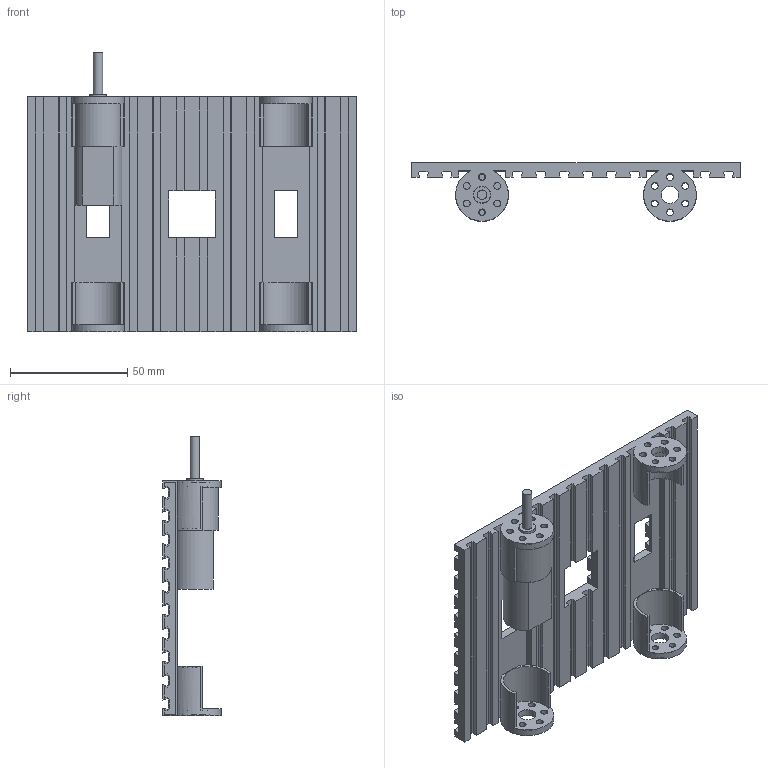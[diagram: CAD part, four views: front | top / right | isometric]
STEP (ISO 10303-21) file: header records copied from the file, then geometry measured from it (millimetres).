
FILE_DESCRIPTION(/* description */ (''),/* implementation_level */ '2;1');
FILE_NAME(/* name */ 'C:/Users/priba/Downloads/Chassis20mm100.step',/* time_stamp */ '2020-09-13T09:13:49+02:00',/* author */ (''),/* organization */ (''),/* preprocessor_version */ 'ST-DEVELOPER v18.1',/* originating_system */ 'Autodesk Translation Framework v9.3.0.1241',/* authorisation */ '');
FILE_SCHEMA (('AUTOMOTIVE_DESIGN { 1 0 10303 214 3 1 1 }'));
Length unit declared in the file: millimetre
Products named in the file (2): Chassis20mm100; Motor20mm
Assembly tree (1 placements, depth 2):
  Chassis20mm100
    Motor20mm
Bounding box: 140 x 24.94 x 119 mm (x, y, z)
Volume: 41517.6 mm3; surface area: 98947.2 mm2
Topology: 2 solids, 6 shells, 552 faces, 1727 edges, 1150 vertices
Faces by surface type: plane 473, cylinder 79
Full cylindrical faces by diameter (mm): 2.5 x2, 2.9 x24, 4 x25, 7 x1, 7.4 x4, 8.5 x4, 20 x1, 21.403 x4
Entity records: 19295 total; most frequent: ORIENTED_EDGE 3454, CARTESIAN_POINT 3432, DIRECTION 3015, EDGE_CURVE 1727, LINE 1549, VECTOR 1549, VERTEX_POINT 1150, AXIS2_PLACEMENT_3D 733
